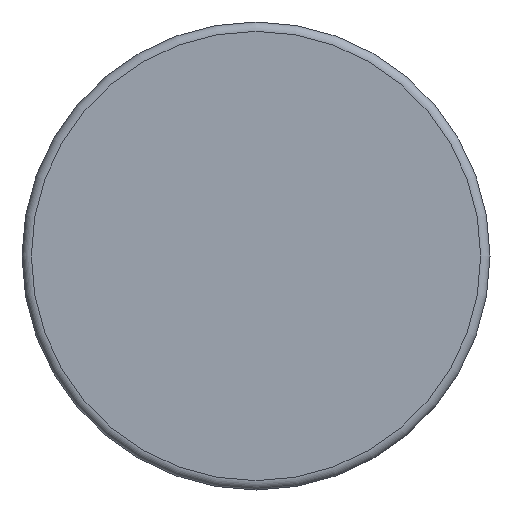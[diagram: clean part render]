
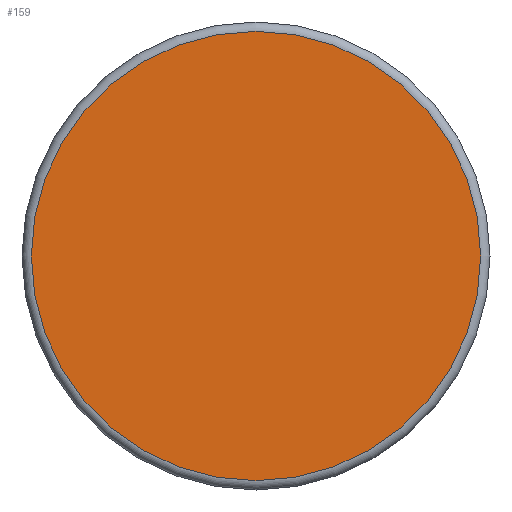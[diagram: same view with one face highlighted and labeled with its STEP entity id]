
A CAD part, front view. The second image highlights one B-rep face of the part: STEP entity #159.
In plain terms, the highlighted planar face has unit normal (0, -1, 0).
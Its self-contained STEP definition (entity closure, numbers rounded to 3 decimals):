
#159 = ADVANCED_FACE( '', ( #323 ), #324, .F. );
#323 = FACE_OUTER_BOUND( '', #523, .T. );
#324 = PLANE( '', #524 );
#523 = EDGE_LOOP( '', ( #746 ) );
#524 = AXIS2_PLACEMENT_3D( '', #747, #748, #749 );
#746 = ORIENTED_EDGE( '', *, *, #1144, .T. );
#747 = CARTESIAN_POINT( '', ( 24., 0., 0. ) );
#748 = DIRECTION( '', ( 0., 1., 0. ) );
#749 = DIRECTION( '', ( 0., 0., 1. ) );
#1144 = EDGE_CURVE( '', #1323, #1323, #1324, .T. );
#1323 = VERTEX_POINT( '', #1627 );
#1324 = CIRCLE( '', #1628, 24. );
#1627 = CARTESIAN_POINT( '', ( 0., 0., -24. ) );
#1628 = AXIS2_PLACEMENT_3D( '', #2019, #2020, #2021 );
#2019 = CARTESIAN_POINT( '', ( 0., 0., 0. ) );
#2020 = DIRECTION( '', ( 0., -1., 0. ) );
#2021 = DIRECTION( '', ( 0., 0., -1. ) );
